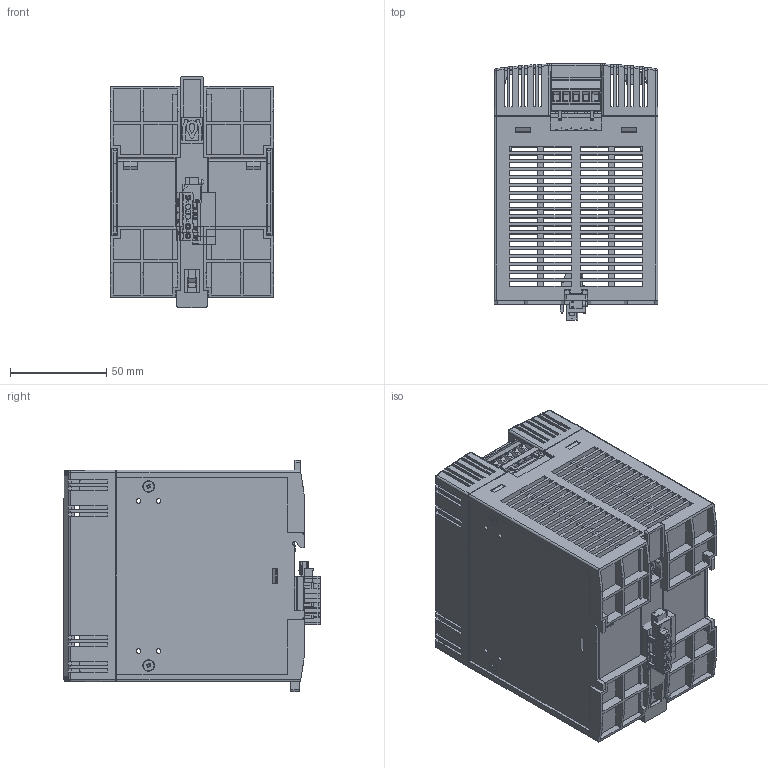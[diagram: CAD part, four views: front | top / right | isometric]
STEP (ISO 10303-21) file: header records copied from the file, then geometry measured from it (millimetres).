
FILE_DESCRIPTION( ( 'Unknown' ), '1' );
FILE_NAME( 'J:/DESBAKUP/3D DATA/TCL/ASSEMBLIES/3D OUTPUT & IMAGES/TCL 240-124.stp', 'Unknown', ( 'Unknown' ), ( 'Unknown' ), 'PSStep 13.0', 'Unknown', ' ' );
FILE_SCHEMA( ( 'AUTOMOTIVE_DESIGN { 1 0 10303 214 1 1 1 1 }' ) );
Length unit declared in the file: millimetre
Products named in the file (16): Assem1; 24600230-CHASSIS; 24600230-HOOD; 24600230-DINSLIDE; 24300187-HEATSINK; 24300186-HEATSINK; 24500014-SCREW-oa0; 24500014-SCREW-oa1; 24500014-SCREW-oa2; 24500014-SCREW-oa3; 21500012-LED-G; 22200006-POT; 23400244-CONNECTOR; 23400245-CONNECTOR; 23500243-CONNECTOR; 23500246-CONNECTOR
Bounding box: 85 x 133.14 x 120 mm (x, y, z)
Volume: 272767.1 mm3; surface area: 347453.9 mm2
Topology: 30 solids, 30 shells, 6022 faces, 17388 edges, 11376 vertices
Faces by surface type: plane 4978, cylinder 638, sphere 166, bspline 108, cone 68, revolution 60, torus 4
Full cylindrical faces by diameter (mm): 0.305 x4, 0.5 x4, 0.508 x6, 2.4 x16, 3 x10, 3.2 x4, 3.5 x2, 3.708 x2, 3.861 x2, 4 x2, 5.41 x2, 5.5 x2, 5.6 x8, 6 x2, 6.401 x2, 6.502 x2
Entity records: 135995 total; most frequent: CARTESIAN_POINT 23887, ORIENTED_EDGE 17222, DIRECTION 15252, EDGE_CURVE 8611, LINE 6948, VECTOR 6948, VERTEX_POINT 5664, PRESENTATION_STYLE_ASSIGNMENT 5058
